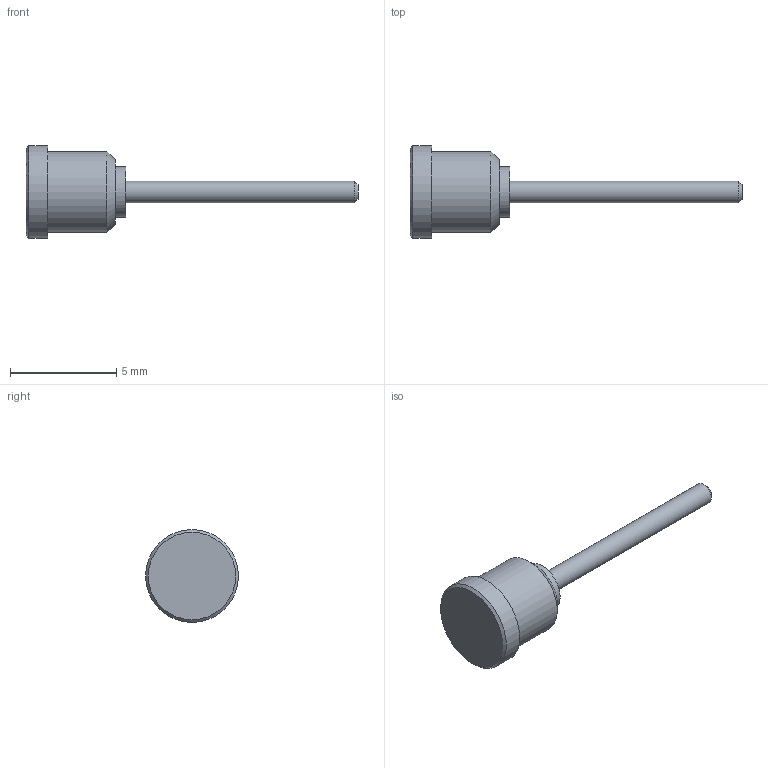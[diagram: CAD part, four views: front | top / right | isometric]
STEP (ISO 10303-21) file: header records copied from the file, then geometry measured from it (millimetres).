
FILE_DESCRIPTION(/* description */ (''),/* implementation_level */ '2;1');
FILE_NAME(/* name */ '\\Snap1\dwgs\Customer 3D Models\571\571-4046-02 Customer model.stp',/* time_stamp */ '2017-01-05T12:21:46+00:00',/* author */ ('paulk'),/* organization */ (''),/* preprocessor_version */ 'ST-DEVELOPER v15.2',/* originating_system */ 'Autodesk Inventor 2014',/* authorisation */ '');
FILE_SCHEMA (('CONFIG_CONTROL_DESIGN'));
Length unit declared in the file: millimetre
Products named in the file (1): 571-4046-02 Customer model
Bounding box: 15.62 x 4.37 x 4.37 mm (x, y, z)
Volume: 61.1 mm3; surface area: 116.1 mm2
Topology: 1 solids, 1 shells, 12 faces, 18 edges, 11 vertices
Faces by surface type: plane 5, cylinder 4, cone 3
Full cylindrical faces by diameter (mm): 1.016 x1, 2.388 x1, 3.785 x1, 4.369 x1
Entity records: 281 total; most frequent: DIRECTION 48, CARTESIAN_POINT 35, AXIS2_PLACEMENT_3D 24, EDGE_LOOP 22, ORIENTED_EDGE 22, FACE_BOUND 13, STYLED_ITEM 13, ADVANCED_FACE 12
